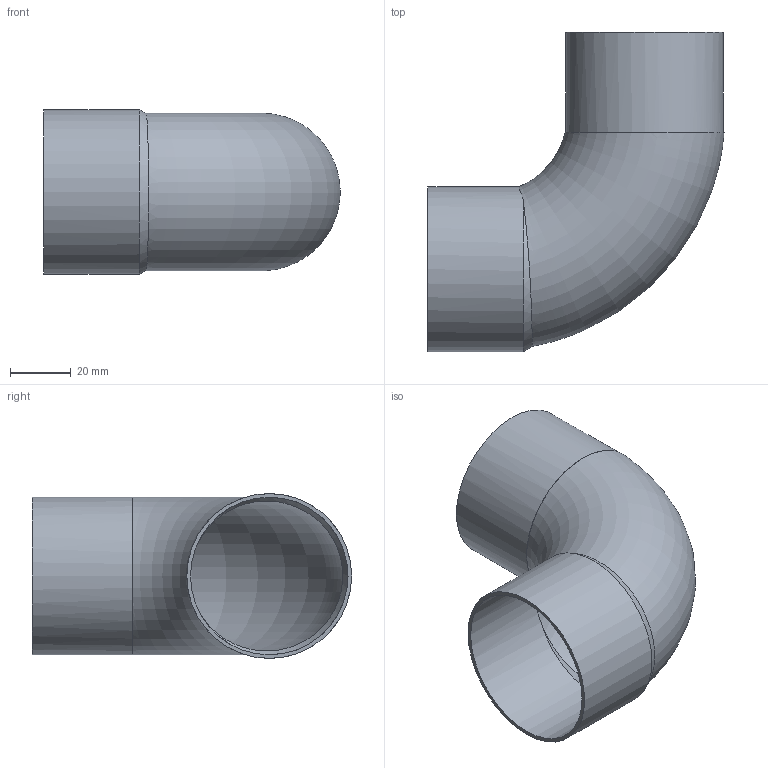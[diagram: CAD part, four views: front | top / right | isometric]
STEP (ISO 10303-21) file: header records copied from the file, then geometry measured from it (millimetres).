
FILE_DESCRIPTION((''),'2;1');
FILE_NAME('G:\SANHA-Ternat\Technik\Management\Bouwmaten + markeringen\z-maattekeningen 3D\5000\5092\1509252(1).stp','2018-02-20T09:44:08',('vdvijverd'),(''),'Autodesk Inventor 2009','Autodesk Inventor 2009','');
FILE_SCHEMA(('AUTOMOTIVE_DESIGN { 1 0 10303 214 1 1 1 1 }'));
Length unit declared in the file: millimetre
Products named in the file (1): 1509252(1)
Bounding box: 97.77 x 105.4 x 54.4 mm (x, y, z)
Volume: 25801.1 mm3; surface area: 42014.4 mm2
Topology: 1 solids, 1 shells, 18 faces, 39 edges, 24 vertices
Faces by surface type: plane 9, cylinder 5, torus 2, cone 2
Full cylindrical faces by diameter (mm): 49.5 x1, 52 x2, 54.4 x1
Entity records: 872 total; most frequent: CARTESIAN_POINT 527, DIRECTION 66, ORIENTED_EDGE 54, AXIS2_PLACEMENT_3D 33, EDGE_CURVE 27, EDGE_LOOP 27, VERTEX_POINT 18, FACE_OUTER_BOUND 18
